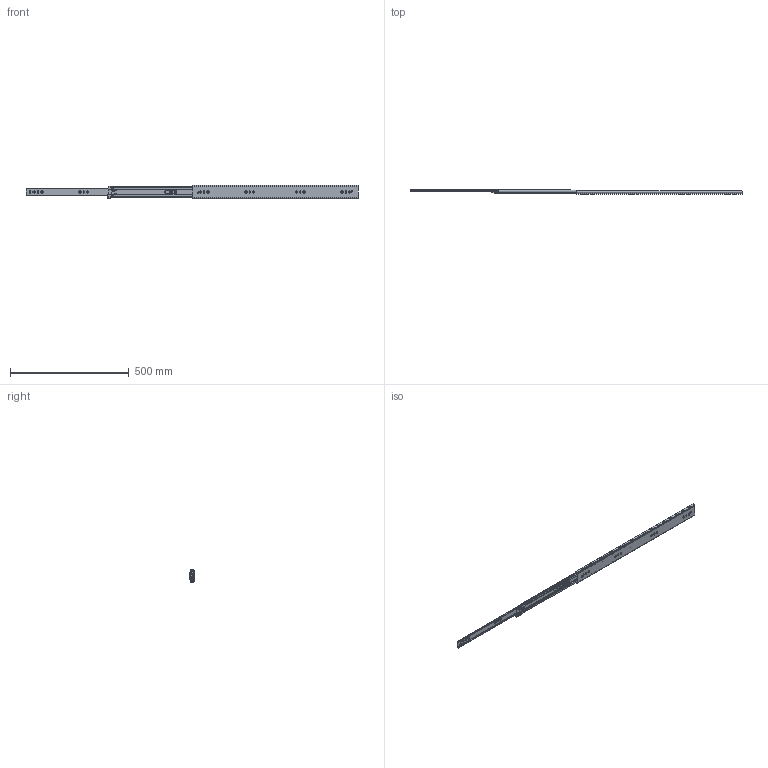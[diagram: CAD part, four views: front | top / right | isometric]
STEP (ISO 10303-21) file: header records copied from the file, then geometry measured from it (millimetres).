
FILE_DESCRIPTION((''),'2;1');
FILE_NAME('1057-C-28_ASM','2023-11-23T',('jishu015'),(''),'PRO/ENGINEER BY PARAMETRIC TECHNOLOGY CORPORATION, 2010280','PRO/ENGINEER BY PARAMETRIC TECHNOLOGY CORPORATION, 2010280','');
FILE_SCHEMA(('CONFIG_CONTROL_DESIGN'));
Products named in the file (19): KP-57-01WEIKE-31____; MAODING-WAI____; 1057DAZHUJIA-20GE1____; 1057ZHUJIADANWEIJIAO123; 1057-5-6GANZHU1____; 1057DAZHUJIA-20GE_11________ASM; 1057-C-20-KE_____ASM; KP-57-01ZHONGGUI-28_________; PEIJIAN-22____; ZHUANJIAO112____; LIUJIAO-DING11____; MAODING-P____; PEIJIAN-ZHONG_____ASM; 1057XIAOZHUJIA___20_____; 1057XIAOZHUJIA-20GE______ASM; KP-57-01ZHONGGUI-28__________ASM; KP-57-01NEIGUI-241____; KP-57-01NEIGUI-241_____ASM; 1057-C-28_ASM
Assembly tree (112 placements, depth 4):
  1057-C-28_ASM
    1057-C-20-KE_____ASM
      KP-57-01WEIKE-31____
      MAODING-WAI____  x2
      1057DAZHUJIA-20GE_11________ASM
        1057DAZHUJIA-20GE1____
        1057ZHUJIADANWEIJIAO123  x2
        1057-5-6GANZHU1____  x44
    KP-57-01ZHONGGUI-28__________ASM
      KP-57-01ZHONGGUI-28_________
      PEIJIAN-ZHONG_____ASM  x2
        PEIJIAN-22____
        ZHUANJIAO112____
        LIUJIAO-DING11____
        MAODING-P____
      MAODING-WAI____  x2
      1057XIAOZHUJIA-20GE______ASM
        1057XIAOZHUJIA___20_____
        1057-5-6GANZHU1____  x44
        1057ZHUJIADANWEIJIAO123  x2
    KP-57-01NEIGUI-241_____ASM
      KP-57-01NEIGUI-241____
Bounding box: 1400 x 19.8 x 57.67 mm (x, y, z)
Volume: 299763.9 mm3; surface area: 347215 mm2
Topology: 109 solids, 109 shells, 2988 faces, 8252 edges, 5124 vertices
Faces by surface type: plane 1336, cylinder 1202, sphere 182, bspline 98, torus 88, cone 82
Entity records: 82708 total; most frequent: CARTESIAN_POINT 17671, DIRECTION 13818, ORIENTED_EDGE 13470, EDGE_CURVE 6735, AXIS2_PLACEMENT_3D 4790, VERTEX_POINT 4332, VECTOR 4238, LINE 4238
